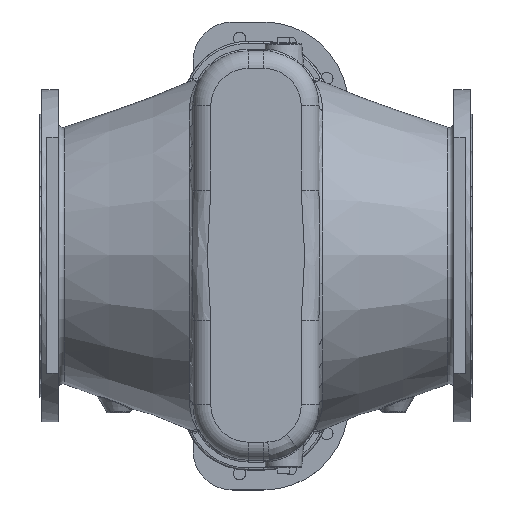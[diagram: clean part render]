
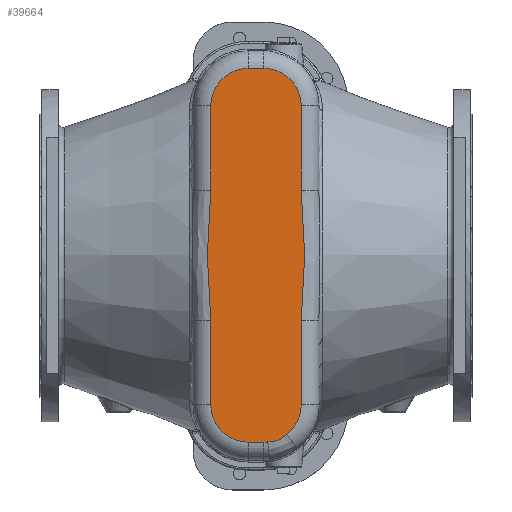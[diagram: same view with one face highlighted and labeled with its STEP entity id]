
A CAD part, top view. The second image highlights one B-rep face of the part: STEP entity #39664.
In plain terms, the highlighted planar face has unit normal (0, 0, 1).
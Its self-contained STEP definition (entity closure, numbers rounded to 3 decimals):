
#2212=B_SPLINE_CURVE_WITH_KNOTS('',3,(#75627,#75628,#75629,#75630,#75631,
#75632,#75633,#75634,#75635,#75636),.UNSPECIFIED.,.F.,.F.,(4,1,1,1,1,1,
1,4),(0.,4.75,9.499,14.249,
18.999,23.748,28.498,33.247),
 .UNSPECIFIED.);
#2214=B_SPLINE_CURVE_WITH_KNOTS('',3,(#75786,#75787,#75788,#75789,#75790,
#75791,#75792,#75793,#75794,#75795,#75796,#75797,#75798,#75799,#75800),
 .UNSPECIFIED.,.F.,.F.,(4,1,1,1,1,1,1,1,1,1,1,1,4),(0.,
0.764,1.528,1.782,2.037,2.291,
2.801,3.055,3.437,3.819,4.201,
4.583,5.347),.UNSPECIFIED.);
#2216=B_SPLINE_CURVE_WITH_KNOTS('',3,(#75893,#75894,#75895,#75896,#75897,
#75898,#75899,#75900,#75901,#75902),.UNSPECIFIED.,.F.,.F.,(4,1,1,1,1,1,
1,4),(0.,4.75,9.499,14.249,
18.999,23.748,28.498,33.247),
 .UNSPECIFIED.);
#4394=LINE('',#75543,#7221);
#4395=LINE('',#75639,#7222);
#4397=LINE('',#75653,#7224);
#4399=LINE('',#75656,#7226);
#4401=LINE('',#75809,#7228);
#4402=LINE('',#75904,#7229);
#7221=VECTOR('',#52169,214.011);
#7222=VECTOR('',#52174,214.011);
#7224=VECTOR('',#52194,40.);
#7226=VECTOR('',#52198,40.);
#7228=VECTOR('',#52220,214.011);
#7229=VECTOR('',#52225,214.011);
#8562=PLANE('',#43134);
#11154=FACE_OUTER_BOUND('',#13743,.T.);
#13743=EDGE_LOOP('',(#34605,#34606,#34607,#34608,#34609,#34610,#34611,#34612,
#34613,#34614,#34615,#34616,#34617,#34618));
#15421=CIRCLE('',#41875,95.);
#15980=CIRCLE('',#43105,95.);
#15982=CIRCLE('',#43108,95.);
#15986=CIRCLE('',#43115,95.);
#15988=CIRCLE('',#43118,95.);
#18265=VERTEX_POINT('',#67342);
#18266=VERTEX_POINT('',#67344);
#19348=VERTEX_POINT('',#75537);
#19350=VERTEX_POINT('',#75541);
#19351=VERTEX_POINT('',#75614);
#19353=VERTEX_POINT('',#75638);
#19354=VERTEX_POINT('',#75643);
#19355=VERTEX_POINT('',#75647);
#19356=VERTEX_POINT('',#75651);
#19357=VERTEX_POINT('',#75658);
#19358=VERTEX_POINT('',#75660);
#19359=VERTEX_POINT('',#75768);
#19361=VERTEX_POINT('',#75805);
#19363=VERTEX_POINT('',#75880);
#22825=EDGE_CURVE('',#18265,#18266,#15421,.T.);
#24629=EDGE_CURVE('',#19350,#19348,#4394,.T.);
#24632=EDGE_CURVE('',#19348,#19351,#2212,.T.);
#24633=EDGE_CURVE('',#19351,#19353,#4395,.T.);
#24637=EDGE_CURVE('',#19354,#19350,#15980,.T.);
#24639=EDGE_CURVE('',#19353,#19355,#15982,.T.);
#24641=EDGE_CURVE('',#19356,#19354,#4397,.T.);
#24643=EDGE_CURVE('',#19355,#18265,#4399,.T.);
#24646=EDGE_CURVE('',#19358,#19357,#15986,.T.);
#24649=EDGE_CURVE('',#19357,#19359,#2214,.T.);
#24650=EDGE_CURVE('',#19359,#19356,#15988,.T.);
#24654=EDGE_CURVE('',#18266,#19361,#4401,.T.);
#24657=EDGE_CURVE('',#19361,#19363,#2216,.T.);
#24658=EDGE_CURVE('',#19363,#19358,#4402,.T.);
#34605=ORIENTED_EDGE('',*,*,#24646,.F.);
#34606=ORIENTED_EDGE('',*,*,#24658,.F.);
#34607=ORIENTED_EDGE('',*,*,#24657,.F.);
#34608=ORIENTED_EDGE('',*,*,#24654,.F.);
#34609=ORIENTED_EDGE('',*,*,#22825,.F.);
#34610=ORIENTED_EDGE('',*,*,#24643,.F.);
#34611=ORIENTED_EDGE('',*,*,#24639,.F.);
#34612=ORIENTED_EDGE('',*,*,#24633,.F.);
#34613=ORIENTED_EDGE('',*,*,#24632,.F.);
#34614=ORIENTED_EDGE('',*,*,#24629,.F.);
#34615=ORIENTED_EDGE('',*,*,#24637,.F.);
#34616=ORIENTED_EDGE('',*,*,#24641,.F.);
#34617=ORIENTED_EDGE('',*,*,#24650,.F.);
#34618=ORIENTED_EDGE('',*,*,#24649,.F.);
#39664=ADVANCED_FACE('',(#11154),#8562,.T.);
#41875=AXIS2_PLACEMENT_3D('',#67345,#48749,#48750);
#43105=AXIS2_PLACEMENT_3D('',#75645,#52182,#52183);
#43108=AXIS2_PLACEMENT_3D('',#75649,#52188,#52189);
#43115=AXIS2_PLACEMENT_3D('',#75662,#52205,#52206);
#43118=AXIS2_PLACEMENT_3D('',#75802,#52211,#52212);
#43134=AXIS2_PLACEMENT_3D('',#75916,#52247,#52248);
#48749=DIRECTION('center_axis',(0.,0.,-1.));
#48750=DIRECTION('ref_axis',(0.707,0.707,0.));
#52169=DIRECTION('',(0.,1.,0.));
#52174=DIRECTION('',(0.,1.,0.));
#52182=DIRECTION('center_axis',(0.,0.,-1.));
#52183=DIRECTION('ref_axis',(-0.707,-0.707,0.));
#52188=DIRECTION('center_axis',(0.,0.,-1.));
#52189=DIRECTION('ref_axis',(-0.707,0.707,0.));
#52194=DIRECTION('',(-1.,0.,0.));
#52198=DIRECTION('',(1.,0.,0.));
#52205=DIRECTION('center_axis',(0.,0.,-1.));
#52206=DIRECTION('ref_axis',(0.707,-0.707,0.));
#52211=DIRECTION('center_axis',(0.,0.,-1.));
#52212=DIRECTION('ref_axis',(0.707,-0.707,0.));
#52220=DIRECTION('',(0.,-1.,0.));
#52225=DIRECTION('',(0.,-1.,0.));
#52247=DIRECTION('center_axis',(0.,0.,1.));
#52248=DIRECTION('ref_axis',(1.,0.,0.));
#67342=CARTESIAN_POINT('',(20.,475.,1020.));
#67344=CARTESIAN_POINT('',(115.,380.,1020.));
#67345=CARTESIAN_POINT('Origin',(20.,380.,1020.));
#75537=CARTESIAN_POINT('',(-115.,-165.989,1020.));
#75541=CARTESIAN_POINT('',(-115.,-380.,1020.));
#75543=CARTESIAN_POINT('',(-115.,-190.,1020.));
#75614=CARTESIAN_POINT('',(-115.,165.989,1020.));
#75627=CARTESIAN_POINT('Ctrl Pts',(-115.,-165.989,1020.));
#75628=CARTESIAN_POINT('Ctrl Pts',(-115.,-150.157,1020.));
#75629=CARTESIAN_POINT('Ctrl Pts',(-116.63,-118.528,
1020.));
#75630=CARTESIAN_POINT('Ctrl Pts',(-120.79,-71.172,
1020.));
#75631=CARTESIAN_POINT('Ctrl Pts',(-123.912,-23.764,1020.));
#75632=CARTESIAN_POINT('Ctrl Pts',(-123.918,23.777,1020.));
#75633=CARTESIAN_POINT('Ctrl Pts',(-120.787,71.192,1020.));
#75634=CARTESIAN_POINT('Ctrl Pts',(-116.633,118.497,1020.));
#75635=CARTESIAN_POINT('Ctrl Pts',(-115.,150.157,1020.));
#75636=CARTESIAN_POINT('Ctrl Pts',(-115.,165.989,1020.));
#75638=CARTESIAN_POINT('',(-115.,380.,1020.));
#75639=CARTESIAN_POINT('',(-115.,-190.,1020.));
#75643=CARTESIAN_POINT('',(-20.,-475.,1020.));
#75645=CARTESIAN_POINT('Origin',(-20.,-380.,1020.));
#75647=CARTESIAN_POINT('',(-20.,475.,1020.));
#75649=CARTESIAN_POINT('Origin',(-20.,380.,1020.));
#75651=CARTESIAN_POINT('',(20.,-475.,1020.));
#75653=CARTESIAN_POINT('',(10.,-475.,1020.));
#75656=CARTESIAN_POINT('',(-10.,475.,1020.));
#75658=CARTESIAN_POINT('',(78.154,-455.121,1020.));
#75660=CARTESIAN_POINT('',(115.,-380.,1020.));
#75662=CARTESIAN_POINT('Origin',(20.,-380.,1020.));
#75768=CARTESIAN_POINT('',(29.83,-474.49,1020.));
#75786=CARTESIAN_POINT('Ctrl Pts',(78.154,-455.121,1020.));
#75787=CARTESIAN_POINT('Ctrl Pts',(76.141,-456.679,1020.));
#75788=CARTESIAN_POINT('Ctrl Pts',(72.146,-459.841,1020.));
#75789=CARTESIAN_POINT('Ctrl Pts',(67.412,-463.43,1020.));
#75790=CARTESIAN_POINT('Ctrl Pts',(63.897,-465.813,1020.));
#75791=CARTESIAN_POINT('Ctrl Pts',(61.741,-467.167,1020.));
#75792=CARTESIAN_POINT('Ctrl Pts',(58.789,-468.848,1020.));
#75793=CARTESIAN_POINT('Ctrl Pts',(55.709,-470.292,1020.));
#75794=CARTESIAN_POINT('Ctrl Pts',(52.102,-471.563,1020.));
#75795=CARTESIAN_POINT('Ctrl Pts',(48.814,-472.421,1020.));
#75796=CARTESIAN_POINT('Ctrl Pts',(45.04,-473.068,1020.));
#75797=CARTESIAN_POINT('Ctrl Pts',(41.246,-473.499,1020.));
#75798=CARTESIAN_POINT('Ctrl Pts',(36.172,-473.93,1020.));
#75799=CARTESIAN_POINT('Ctrl Pts',(32.363,-474.227,1020.));
#75800=CARTESIAN_POINT('Ctrl Pts',(29.83,-474.49,1020.));
#75802=CARTESIAN_POINT('Origin',(20.,-380.,1020.));
#75805=CARTESIAN_POINT('',(115.,165.989,1020.));
#75809=CARTESIAN_POINT('',(115.,190.,1020.));
#75880=CARTESIAN_POINT('',(115.,-165.989,1020.));
#75893=CARTESIAN_POINT('Ctrl Pts',(115.,165.989,1020.));
#75894=CARTESIAN_POINT('Ctrl Pts',(115.,150.157,1020.));
#75895=CARTESIAN_POINT('Ctrl Pts',(116.631,118.526,1020.));
#75896=CARTESIAN_POINT('Ctrl Pts',(120.788,71.172,1020.));
#75897=CARTESIAN_POINT('Ctrl Pts',(123.918,23.766,1020.));
#75898=CARTESIAN_POINT('Ctrl Pts',(123.912,-23.776,1020.));
#75899=CARTESIAN_POINT('Ctrl Pts',(120.789,-71.194,1020.));
#75900=CARTESIAN_POINT('Ctrl Pts',(116.632,-118.497,1020.));
#75901=CARTESIAN_POINT('Ctrl Pts',(115.,-150.157,1020.));
#75902=CARTESIAN_POINT('Ctrl Pts',(115.,-165.989,1020.));
#75904=CARTESIAN_POINT('',(115.,190.,1020.));
#75916=CARTESIAN_POINT('Origin',(0.,0.,
1020.));
